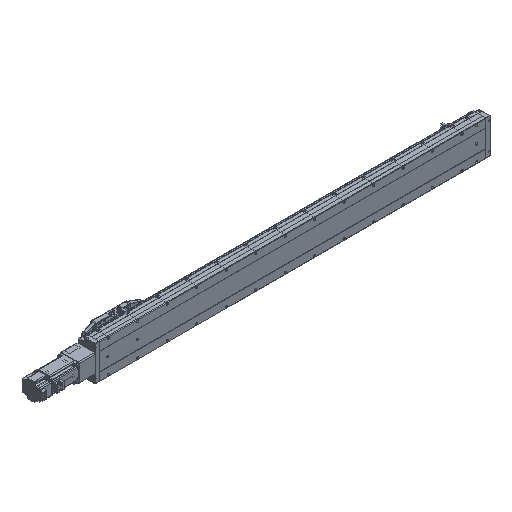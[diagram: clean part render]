
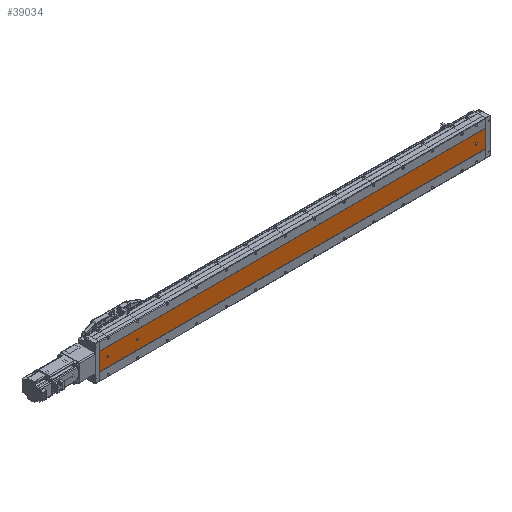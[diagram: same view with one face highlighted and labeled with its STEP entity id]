
A CAD part, isometric view. The second image highlights one B-rep face of the part: STEP entity #39034.
In plain terms, the highlighted planar face has unit normal (0, -1, 0).
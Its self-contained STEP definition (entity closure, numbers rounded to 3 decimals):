
#162 = LINE ( 'NONE', #53666, #74334 ) ;
#504 = DIRECTION ( 'NONE',  ( 0., 0., -1. ) ) ;
#1806 = FACE_OUTER_BOUND ( 'NONE', #96077, .T. ) ;
#2047 = EDGE_LOOP ( 'NONE', ( #35354, #27682, #53777, #45574, #61764 ) ) ;
#2820 = CARTESIAN_POINT ( 'NONE',  ( -69.892, -52.848, 0. ) ) ;
#4176 = FACE_BOUND ( 'NONE', #2047, .T. ) ;
#5269 = CIRCLE ( 'NONE', #40299, 3.5 ) ;
#5977 = CARTESIAN_POINT ( 'NONE',  ( -39.892, -52.848, 1181. ) ) ;
#6180 = ORIENTED_EDGE ( 'NONE', *, *, #59747, .T. ) ;
#6590 = FACE_BOUND ( 'NONE', #36348, .T. ) ;
#7035 = ORIENTED_EDGE ( 'NONE', *, *, #91056, .T. ) ;
#8992 = VERTEX_POINT ( 'NONE', #38447 ) ;
#9769 = DIRECTION ( 'NONE',  ( 0., 0., 1. ) ) ;
#10515 = EDGE_LOOP ( 'NONE', ( #24554, #7035 ) ) ;
#12194 = AXIS2_PLACEMENT_3D ( 'NONE', #98455, #83134, #52138 ) ;
#12494 = CARTESIAN_POINT ( 'NONE',  ( -69.892, -52.848, 0. ) ) ;
#12719 = ORIENTED_EDGE ( 'NONE', *, *, #68502, .T. ) ;
#13072 = DIRECTION ( 'NONE',  ( 0., 0., 1. ) ) ;
#13711 = VERTEX_POINT ( 'NONE', #45159 ) ;
#14332 = CARTESIAN_POINT ( 'NONE',  ( -36.392, -52.848, 32. ) ) ;
#17606 = AXIS2_PLACEMENT_3D ( 'NONE', #73911, #21061, #13072 ) ;
#21061 = DIRECTION ( 'NONE',  ( 0., 1., 0. ) ) ;
#21410 = CARTESIAN_POINT ( 'NONE',  ( -69.892, -52.848, 1311. ) ) ;
#21443 = CIRCLE ( 'NONE', #68555, 3.5 ) ;
#21638 = CARTESIAN_POINT ( 'NONE',  ( -39.892, -52.848, 1277.5 ) ) ;
#21854 = ORIENTED_EDGE ( 'NONE', *, *, #62529, .F. ) ;
#22681 = EDGE_CURVE ( 'NONE', #26477, #78238, #52727, .T. ) ;
#24554 = ORIENTED_EDGE ( 'NONE', *, *, #34246, .T. ) ;
#24819 = VERTEX_POINT ( 'NONE', #50344 ) ;
#26477 = VERTEX_POINT ( 'NONE', #21410 ) ;
#26855 = LINE ( 'NONE', #49549, #86673 ) ;
#26983 = DIRECTION ( 'NONE',  ( 0., 0., 1. ) ) ;
#27682 = ORIENTED_EDGE ( 'NONE', *, *, #81249, .T. ) ;
#27735 = PLANE ( 'NONE',  #17606 ) ;
#28514 = DIRECTION ( 'NONE',  ( 0., 0., 1. ) ) ;
#28798 = CIRCLE ( 'NONE', #79586, 3.5 ) ;
#32055 = VERTEX_POINT ( 'NONE', #96901 ) ;
#32453 = VERTEX_POINT ( 'NONE', #92549 ) ;
#32480 = CARTESIAN_POINT ( 'NONE',  ( -69.892, -52.848, 1311. ) ) ;
#34246 = EDGE_CURVE ( 'NONE', #80238, #32055, #41219, .T. ) ;
#34464 = EDGE_CURVE ( 'NONE', #13711, #8992, #5269, .T. ) ;
#35216 = CIRCLE ( 'NONE', #12194, 3.5 ) ;
#35354 = ORIENTED_EDGE ( 'NONE', *, *, #39009, .T. ) ;
#36259 = CARTESIAN_POINT ( 'NONE',  ( -39.892, -52.848, 32. ) ) ;
#36348 = EDGE_LOOP ( 'NONE', ( #12719, #6180 ) ) ;
#37181 = CIRCLE ( 'NONE', #85816, 3.5 ) ;
#38447 = CARTESIAN_POINT ( 'NONE',  ( -39.892, -52.848, 26.5 ) ) ;
#38604 = ORIENTED_EDGE ( 'NONE', *, *, #50720, .T. ) ;
#38616 = ORIENTED_EDGE ( 'NONE', *, *, #65035, .T. ) ;
#39009 = EDGE_CURVE ( 'NONE', #32453, #42702, #26855, .T. ) ;
#39034 = ADVANCED_FACE ( 'NONE', ( #4176, #6590, #49665, #1806 ), #27735, .F. ) ;
#39172 = CARTESIAN_POINT ( 'NONE',  ( -39.892, -52.848, 1184.5 ) ) ;
#40147 = VERTEX_POINT ( 'NONE', #48682 ) ;
#40187 = DIRECTION ( 'NONE',  ( 0., 1., 0. ) ) ;
#40299 = AXIS2_PLACEMENT_3D ( 'NONE', #47590, #40187, #9769 ) ;
#41075 = AXIS2_PLACEMENT_3D ( 'NONE', #5977, #67479, #58755 ) ;
#41219 = CIRCLE ( 'NONE', #71092, 3.5 ) ;
#42702 = VERTEX_POINT ( 'NONE', #72305 ) ;
#45159 = CARTESIAN_POINT ( 'NONE',  ( -36.392, -52.848, 30. ) ) ;
#45574 = ORIENTED_EDGE ( 'NONE', *, *, #34464, .T. ) ;
#47590 = CARTESIAN_POINT ( 'NONE',  ( -39.892, -52.848, 30. ) ) ;
#47866 = DIRECTION ( 'NONE',  ( 1., 0., 0. ) ) ;
#48682 = CARTESIAN_POINT ( 'NONE',  ( -9.892, -52.848, 0. ) ) ;
#49549 = CARTESIAN_POINT ( 'NONE',  ( -43.392, -52.848, 1311. ) ) ;
#49665 = FACE_BOUND ( 'NONE', #10515, .T. ) ;
#50344 = CARTESIAN_POINT ( 'NONE',  ( -39.892, -52.848, 1177.5 ) ) ;
#50720 = EDGE_CURVE ( 'NONE', #26477, #61013, #162, .T. ) ;
#51610 = CIRCLE ( 'NONE', #41075, 3.5 ) ;
#52138 = DIRECTION ( 'NONE',  ( 0., 0., 1. ) ) ;
#52727 = LINE ( 'NONE', #32480, #73007 ) ;
#53650 = EDGE_CURVE ( 'NONE', #80293, #13711, #75757, .T. ) ;
#53666 = CARTESIAN_POINT ( 'NONE',  ( -69.892, -52.848, 1311. ) ) ;
#53777 = ORIENTED_EDGE ( 'NONE', *, *, #53650, .T. ) ;
#58181 = DIRECTION ( 'NONE',  ( 0., 0., 1. ) ) ;
#58755 = DIRECTION ( 'NONE',  ( 0., 0., 1. ) ) ;
#59747 = EDGE_CURVE ( 'NONE', #61410, #24819, #35216, .T. ) ;
#59894 = VECTOR ( 'NONE', #93940, 1000. ) ;
#61013 = VERTEX_POINT ( 'NONE', #2820 ) ;
#61039 = CARTESIAN_POINT ( 'NONE',  ( -36.392, -52.848, 1311. ) ) ;
#61410 = VERTEX_POINT ( 'NONE', #39172 ) ;
#61764 = ORIENTED_EDGE ( 'NONE', *, *, #68659, .T. ) ;
#61957 = LINE ( 'NONE', #12494, #67993 ) ;
#62529 = EDGE_CURVE ( 'NONE', #78238, #40147, #77860, .T. ) ;
#62893 = CARTESIAN_POINT ( 'NONE',  ( -9.892, -52.848, 1311. ) ) ;
#64502 = CARTESIAN_POINT ( 'NONE',  ( -39.892, -52.848, 1281. ) ) ;
#65035 = EDGE_CURVE ( 'NONE', #61013, #40147, #61957, .T. ) ;
#67479 = DIRECTION ( 'NONE',  ( 0., 1., 0. ) ) ;
#67993 = VECTOR ( 'NONE', #89665, 1000. ) ;
#68502 = EDGE_CURVE ( 'NONE', #24819, #61410, #51610, .T. ) ;
#68555 = AXIS2_PLACEMENT_3D ( 'NONE', #64502, #95491, #26983 ) ;
#68659 = EDGE_CURVE ( 'NONE', #8992, #32453, #28798, .T. ) ;
#69138 = CARTESIAN_POINT ( 'NONE',  ( -39.892, -52.848, 30. ) ) ;
#71092 = AXIS2_PLACEMENT_3D ( 'NONE', #83320, #74344, #28514 ) ;
#72305 = CARTESIAN_POINT ( 'NONE',  ( -43.392, -52.848, 32. ) ) ;
#73007 = VECTOR ( 'NONE', #47866, 1000. ) ;
#73911 = CARTESIAN_POINT ( 'NONE',  ( -69.892, -52.848, 1311. ) ) ;
#74334 = VECTOR ( 'NONE', #98328, 1000. ) ;
#74344 = DIRECTION ( 'NONE',  ( 0., 1., 0. ) ) ;
#75757 = LINE ( 'NONE', #61039, #81683 ) ;
#76815 = DIRECTION ( 'NONE',  ( 0., 1., 0. ) ) ;
#77860 = LINE ( 'NONE', #62893, #59894 ) ;
#78238 = VERTEX_POINT ( 'NONE', #97813 ) ;
#79586 = AXIS2_PLACEMENT_3D ( 'NONE', #69138, #76815, #91466 ) ;
#80238 = VERTEX_POINT ( 'NONE', #21638 ) ;
#80293 = VERTEX_POINT ( 'NONE', #14332 ) ;
#81249 = EDGE_CURVE ( 'NONE', #42702, #80293, #37181, .T. ) ;
#81683 = VECTOR ( 'NONE', #504, 1000. ) ;
#83134 = DIRECTION ( 'NONE',  ( 0., 1., 0. ) ) ;
#83320 = CARTESIAN_POINT ( 'NONE',  ( -39.892, -52.848, 1281. ) ) ;
#84546 = ORIENTED_EDGE ( 'NONE', *, *, #22681, .F. ) ;
#85816 = AXIS2_PLACEMENT_3D ( 'NONE', #36259, #90367, #89703 ) ;
#86673 = VECTOR ( 'NONE', #58181, 1000. ) ;
#89665 = DIRECTION ( 'NONE',  ( 1., 0., 0. ) ) ;
#89703 = DIRECTION ( 'NONE',  ( 0., 0., 1. ) ) ;
#90367 = DIRECTION ( 'NONE',  ( 0., 1., 0. ) ) ;
#91056 = EDGE_CURVE ( 'NONE', #32055, #80238, #21443, .T. ) ;
#91466 = DIRECTION ( 'NONE',  ( 0., 0., 1. ) ) ;
#92549 = CARTESIAN_POINT ( 'NONE',  ( -43.392, -52.848, 30. ) ) ;
#93940 = DIRECTION ( 'NONE',  ( 0., 0., -1. ) ) ;
#95491 = DIRECTION ( 'NONE',  ( 0., 1., 0. ) ) ;
#96077 = EDGE_LOOP ( 'NONE', ( #38616, #21854, #84546, #38604 ) ) ;
#96901 = CARTESIAN_POINT ( 'NONE',  ( -39.892, -52.848, 1284.5 ) ) ;
#97813 = CARTESIAN_POINT ( 'NONE',  ( -9.892, -52.848, 1311. ) ) ;
#98328 = DIRECTION ( 'NONE',  ( 0., 0., -1. ) ) ;
#98455 = CARTESIAN_POINT ( 'NONE',  ( -39.892, -52.848, 1181. ) ) ;
